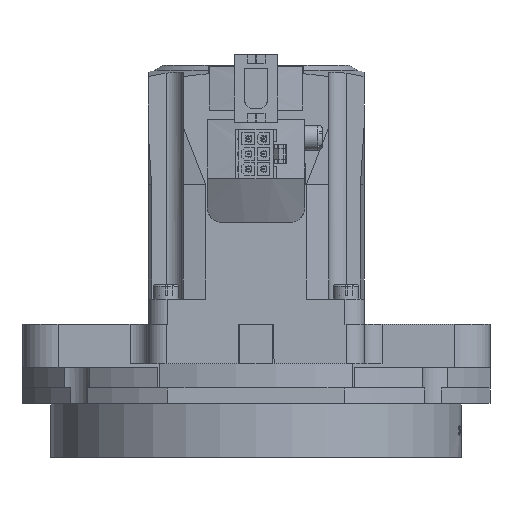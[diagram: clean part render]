
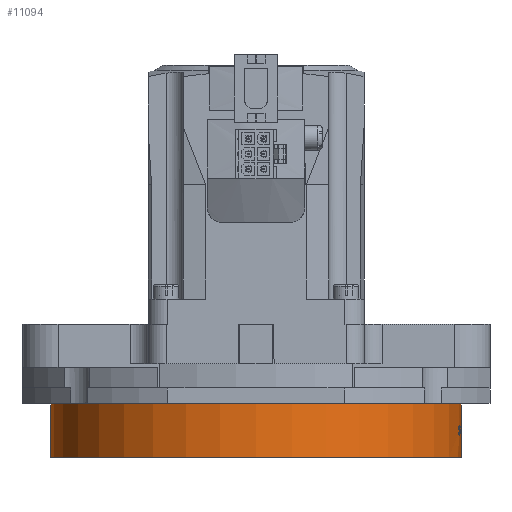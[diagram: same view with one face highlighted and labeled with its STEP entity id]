
A CAD part, front view. The second image highlights one B-rep face of the part: STEP entity #11094.
In plain terms, the highlighted cylindrical face has radius 57 mm (diameter 114 mm), a partial arc.
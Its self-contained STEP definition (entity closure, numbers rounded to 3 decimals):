
#260 = EDGE_LOOP ( 'NONE', ( #8621, #27669, #3665, #15721 ) ) ;
#384 = CARTESIAN_POINT ( 'NONE',  ( 56.731, 57.167, -29.5 ) ) ;
#481 = DIRECTION ( 'NONE',  ( 1., 0., 0. ) ) ;
#819 = CIRCLE ( 'NONE', #26401, 57. ) ;
#910 = CARTESIAN_POINT ( 'NONE',  ( 56.42, 54.584, -30.196 ) ) ;
#1113 = VECTOR ( 'NONE', #10785, 1000. ) ;
#1722 = DIRECTION ( 'NONE',  ( 0., 0., 1. ) ) ;
#3290 = CARTESIAN_POINT ( 'NONE',  ( 56.731, 57.167, -29.125 ) ) ;
#3400 = DIRECTION ( 'NONE',  ( 0., 0., 1. ) ) ;
#3451 = CARTESIAN_POINT ( 'NONE',  ( 0., 62.7, -16. ) ) ;
#3665 = ORIENTED_EDGE ( 'NONE', *, *, #9577, .T. ) ;
#3675 = VERTEX_POINT ( 'NONE', #4038 ) ;
#3836 = CARTESIAN_POINT ( 'NONE',  ( 56.493, 55.113, -30.727 ) ) ;
#3911 = DIRECTION ( 'NONE',  ( 0., 0., 1. ) ) ;
#4038 = CARTESIAN_POINT ( 'NONE',  ( 57., 62.7, -37. ) ) ;
#4137 = VERTEX_POINT ( 'NONE', #22081 ) ;
#5183 = EDGE_CURVE ( 'NONE', #4137, #19073, #18339, .T. ) ;
#5813 = VERTEX_POINT ( 'NONE', #12161 ) ;
#6206 = CARTESIAN_POINT ( 'NONE',  ( 56.718, 57.034, -28.805 ) ) ;
#6380 = B_SPLINE_CURVE_WITH_KNOTS ( 'NONE', 3,
 ( #21245, #18375, #15498, #12593, #9666, #6756, #3836, #910, #26328, #23437 ),
 .UNSPECIFIED., .F., .F.,
 ( 4, 2, 2, 2, 4 ),
 ( 0., 0.125, 0.25, 0.375, 0.5 ),
 .UNSPECIFIED. ) ;
#6756 = CARTESIAN_POINT ( 'NONE',  ( 56.536, 55.432, -30.86 ) ) ;
#6829 = CARTESIAN_POINT ( 'NONE',  ( 57., 62.7, 13.761 ) ) ;
#6912 = CARTESIAN_POINT ( 'NONE',  ( 56.4, 54.451, -29.499 ) ) ;
#7432 = FACE_OUTER_BOUND ( 'NONE', #260, .T. ) ;
#7712 = VECTOR ( 'NONE', #3911, 1000. ) ;
#8375 = EDGE_CURVE ( 'NONE', #27135, #3675, #12994, .T. ) ;
#8596 = DIRECTION ( 'NONE',  ( 1., 0., 0. ) ) ;
#8621 = ORIENTED_EDGE ( 'NONE', *, *, #14353, .F. ) ;
#9126 = CARTESIAN_POINT ( 'NONE',  ( 56.663, 56.503, -28.274 ) ) ;
#9577 = EDGE_CURVE ( 'NONE', #3675, #16855, #9736, .T. ) ;
#9626 = CYLINDRICAL_SURFACE ( 'NONE', #11848, 57. ) ;
#9666 = CARTESIAN_POINT ( 'NONE',  ( 56.627, 56.181, -30.859 ) ) ;
#9736 = LINE ( 'NONE', #6829, #7712 ) ;
#10368 = FACE_BOUND ( 'NONE', #17912, .T. ) ;
#10785 = DIRECTION ( 'NONE',  ( 0., 0., 1. ) ) ;
#11048 = ORIENTED_EDGE ( 'NONE', *, *, #5183, .T. ) ;
#11094 = ADVANCED_FACE ( 'NONE', ( #7432, #10368 ), #9626, .T. ) ;
#11517 = DIRECTION ( 'NONE',  ( 0., 0., 1. ) ) ;
#11848 = AXIS2_PLACEMENT_3D ( 'NONE', #13396, #1722, #27140 ) ;
#12055 = CARTESIAN_POINT ( 'NONE',  ( 56.627, 56.182, -28.141 ) ) ;
#12161 = CARTESIAN_POINT ( 'NONE',  ( -57., 62.7, -16. ) ) ;
#12593 = CARTESIAN_POINT ( 'NONE',  ( 56.663, 56.503, -30.726 ) ) ;
#12994 = CIRCLE ( 'NONE', #18573, 57. ) ;
#13396 = CARTESIAN_POINT ( 'NONE',  ( 0., 62.7, 13.761 ) ) ;
#13703 = CARTESIAN_POINT ( 'NONE',  ( -57., 62.7, 13.761 ) ) ;
#14353 = EDGE_CURVE ( 'NONE', #27135, #5813, #16611, .T. ) ;
#14974 = CARTESIAN_POINT ( 'NONE',  ( 56.536, 55.433, -28.14 ) ) ;
#15498 = CARTESIAN_POINT ( 'NONE',  ( 56.718, 57.033, -30.196 ) ) ;
#15721 = ORIENTED_EDGE ( 'NONE', *, *, #16379, .F. ) ;
#16379 = EDGE_CURVE ( 'NONE', #5813, #16855, #819, .T. ) ;
#16611 = LINE ( 'NONE', #13703, #1113 ) ;
#16855 = VERTEX_POINT ( 'NONE', #21666 ) ;
#17835 = CARTESIAN_POINT ( 'NONE',  ( 56.493, 55.113, -28.273 ) ) ;
#17912 = EDGE_LOOP ( 'NONE', ( #26004, #11048 ) ) ;
#17938 = CARTESIAN_POINT ( 'NONE',  ( 0., 62.7, -37. ) ) ;
#18339 = B_SPLINE_CURVE_WITH_KNOTS ( 'NONE', 3,
 ( #6912, #23577, #20718, #17835, #14974, #12055, #9126, #6206, #3290, #384 ),
 .UNSPECIFIED., .F., .F.,
 ( 4, 2, 2, 2, 4 ),
 ( 0.5, 0.625, 0.75, 0.875, 1. ),
 .UNSPECIFIED. ) ;
#18375 = CARTESIAN_POINT ( 'NONE',  ( 56.731, 57.166, -29.876 ) ) ;
#18573 = AXIS2_PLACEMENT_3D ( 'NONE', #17938, #3400, #481 ) ;
#19073 = VERTEX_POINT ( 'NONE', #24412 ) ;
#20718 = CARTESIAN_POINT ( 'NONE',  ( 56.42, 54.584, -28.803 ) ) ;
#21245 = CARTESIAN_POINT ( 'NONE',  ( 56.731, 57.167, -29.5 ) ) ;
#21666 = CARTESIAN_POINT ( 'NONE',  ( 57., 62.7, -16. ) ) ;
#22081 = CARTESIAN_POINT ( 'NONE',  ( 56.4, 54.451, -29.499 ) ) ;
#23437 = CARTESIAN_POINT ( 'NONE',  ( 56.4, 54.451, -29.499 ) ) ;
#23577 = CARTESIAN_POINT ( 'NONE',  ( 56.4, 54.451, -29.124 ) ) ;
#24412 = CARTESIAN_POINT ( 'NONE',  ( 56.731, 57.167, -29.5 ) ) ;
#26004 = ORIENTED_EDGE ( 'NONE', *, *, #27636, .T. ) ;
#26023 = CARTESIAN_POINT ( 'NONE',  ( -57., 62.7, -37. ) ) ;
#26328 = CARTESIAN_POINT ( 'NONE',  ( 56.4, 54.451, -29.873 ) ) ;
#26401 = AXIS2_PLACEMENT_3D ( 'NONE', #3451, #11517, #8596 ) ;
#27135 = VERTEX_POINT ( 'NONE', #26023 ) ;
#27140 = DIRECTION ( 'NONE',  ( 1., 0., 0. ) ) ;
#27636 = EDGE_CURVE ( 'NONE', #19073, #4137, #6380, .T. ) ;
#27669 = ORIENTED_EDGE ( 'NONE', *, *, #8375, .T. ) ;
